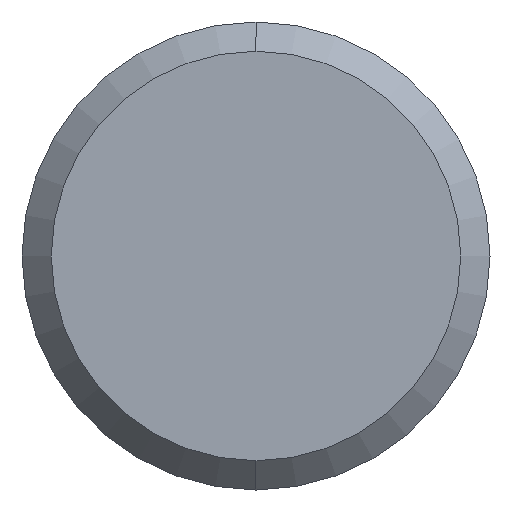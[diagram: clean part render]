
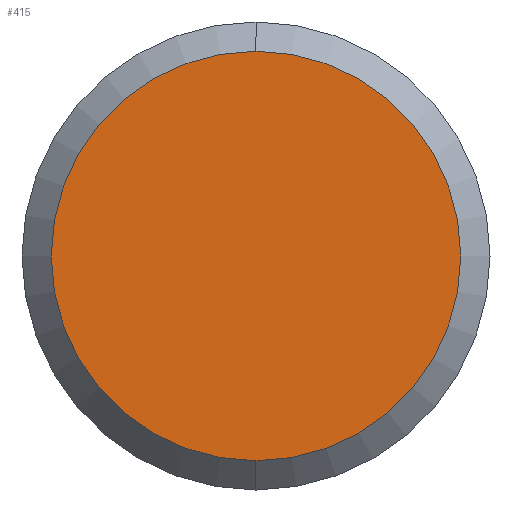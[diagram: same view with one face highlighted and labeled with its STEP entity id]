
A CAD part, left-side view. The second image highlights one B-rep face of the part: STEP entity #415.
In plain terms, the highlighted planar face has unit normal (-1, 0, 0).
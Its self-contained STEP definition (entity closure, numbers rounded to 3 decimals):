
#1 = VERTEX_POINT ( 'NONE', #69 ) ;
#21 = AXIS2_PLACEMENT_3D ( 'NONE', #361, #89, #406 ) ;
#27 = DIRECTION ( 'NONE',  ( 1., 0., 0. ) ) ;
#69 = CARTESIAN_POINT ( 'NONE',  ( 0., 0., 7. ) ) ;
#76 = CIRCLE ( 'NONE', #21, 7. ) ;
#89 = DIRECTION ( 'NONE',  ( -1., 0., 0. ) ) ;
#129 = CARTESIAN_POINT ( 'NONE',  ( 0., 0., -7. ) ) ;
#142 = EDGE_CURVE ( 'NONE', #571, #1, #76, .T. ) ;
#211 = AXIS2_PLACEMENT_3D ( 'NONE', #573, #27, #338 ) ;
#248 = CIRCLE ( 'NONE', #275, 7. ) ;
#249 = PLANE ( 'NONE',  #211 ) ;
#258 = DIRECTION ( 'NONE',  ( -1., 0., 0. ) ) ;
#275 = AXIS2_PLACEMENT_3D ( 'NONE', #533, #258, #582 ) ;
#321 = ORIENTED_EDGE ( 'NONE', *, *, #502, .T. ) ;
#338 = DIRECTION ( 'NONE',  ( 0., 0., -1. ) ) ;
#361 = CARTESIAN_POINT ( 'NONE',  ( 0., 0., 0. ) ) ;
#406 = DIRECTION ( 'NONE',  ( 0., 0., -1. ) ) ;
#415 = ADVANCED_FACE ( 'NONE', ( #523 ), #249, .F. ) ;
#467 = ORIENTED_EDGE ( 'NONE', *, *, #142, .T. ) ;
#502 = EDGE_CURVE ( 'NONE', #1, #571, #248, .T. ) ;
#523 = FACE_OUTER_BOUND ( 'NONE', #531, .T. ) ;
#531 = EDGE_LOOP ( 'NONE', ( #467, #321 ) ) ;
#533 = CARTESIAN_POINT ( 'NONE',  ( 0., 0., 0. ) ) ;
#571 = VERTEX_POINT ( 'NONE', #129 ) ;
#573 = CARTESIAN_POINT ( 'NONE',  ( 0., 0., 0. ) ) ;
#582 = DIRECTION ( 'NONE',  ( 0., 0., -1. ) ) ;
